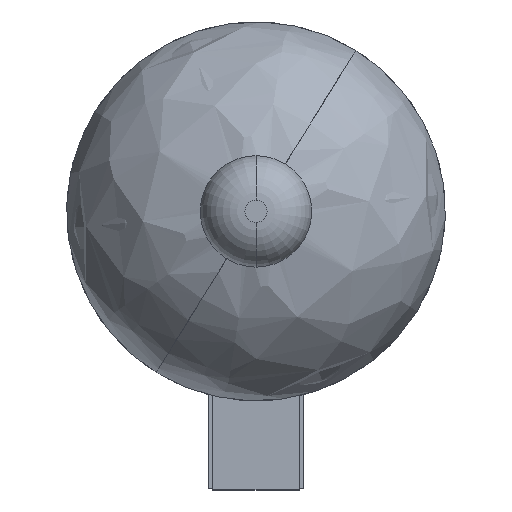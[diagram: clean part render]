
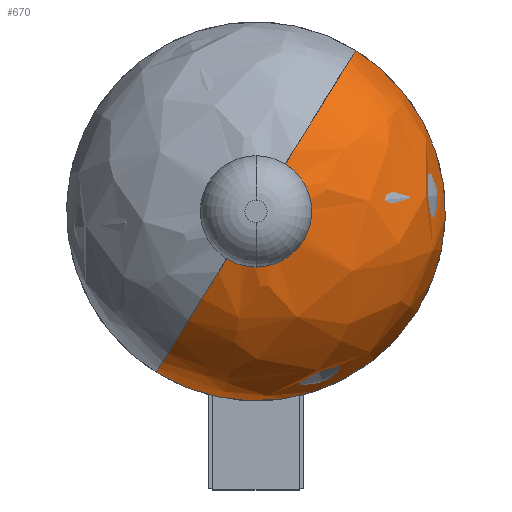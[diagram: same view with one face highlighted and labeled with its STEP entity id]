
A CAD part, front view. The second image highlights one B-rep face of the part: STEP entity #670.
In plain terms, the highlighted free-form (B-spline) face has degree [3, 3] with [4, 4] control points.
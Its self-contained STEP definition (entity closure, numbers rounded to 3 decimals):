
#311 = EDGE_CURVE ( 'NONE', #5690, #4592, #4649, .T. ) ;
#328 = ORIENTED_EDGE ( 'NONE', *, *, #7672, .T. ) ;
#390 = CARTESIAN_POINT ( 'NONE',  ( 182.02, 107.067, 72.265 ) ) ;
#651 = CARTESIAN_POINT ( 'NONE',  ( 128.843, 73.292, -13.603 ) ) ;
#670 = ADVANCED_FACE ( 'NONE', ( #2757 ), #7686, .T. ) ;
#743 = CARTESIAN_POINT ( 'NONE',  ( 128.843, 73.292, -13.603 ) ) ;
#956 = CARTESIAN_POINT ( 'NONE',  ( 145.691, 73.292, 13.603 ) ) ;
#1153 = DIRECTION ( 'NONE',  ( 0., 1., 0. ) ) ;
#1222 = CARTESIAN_POINT ( 'NONE',  ( 92.514, 142.286, -72.265 ) ) ;
#1292 = VERTEX_POINT ( 'NONE', #956 ) ;
#1325 = EDGE_CURVE ( 'NONE', #2012, #9642, #10278, .T. ) ;
#1941 = CARTESIAN_POINT ( 'NONE',  ( 167.727, 79.921, 49.184 ) ) ;
#2012 = VERTEX_POINT ( 'NONE', #3775 ) ;
#2043 = CARTESIAN_POINT ( 'NONE',  ( 182.02, 107.067, 72.265 ) ) ;
#2698 = DIRECTION ( 'NONE',  ( 0., 1., 0. ) ) ;
#2737 =( BOUNDED_CURVE ( )  B_SPLINE_CURVE ( 3, ( #8421, #5852, #390, #8232 ),
 .UNSPECIFIED., .F., .T. ) 
 B_SPLINE_CURVE_WITH_KNOTS ( ( 4, 4 ),
 ( 1.76, 3.142 ),
 .UNSPECIFIED. ) 
 CURVE ( )  GEOMETRIC_REPRESENTATION_ITEM ( )  RATIONAL_B_SPLINE_CURVE ( ( 1., 0.847, 0.847, 1. ) ) 
 REPRESENTATION_ITEM ( '' )  );
#2742 = CARTESIAN_POINT ( 'NONE',  ( 266.094, 79.921, -11.735 ) ) ;
#2757 = FACE_OUTER_BOUND ( 'NONE', #8969, .T. ) ;
#3000 = ORIENTED_EDGE ( 'NONE', *, *, #1325, .T. ) ;
#3106 = AXIS2_PLACEMENT_3D ( 'NONE', #7502, #2698, #7533 ) ;
#3555 = CARTESIAN_POINT ( 'NONE',  ( 205.176, 79.921, -110.102 ) ) ;
#3584 = CARTESIAN_POINT ( 'NONE',  ( 326.55, 142.286, -17.242 ) ) ;
#3616 = CARTESIAN_POINT ( 'NONE',  ( 145.691, 73.292, 13.603 ) ) ;
#3654 = CARTESIAN_POINT ( 'NONE',  ( 92.514, 142.286, -72.265 ) ) ;
#3775 = CARTESIAN_POINT ( 'NONE',  ( 150.87, 73.292, -8.424 ) ) ;
#3912 = CARTESIAN_POINT ( 'NONE',  ( 137.267, 142.286, 0. ) ) ;
#3965 = ORIENTED_EDGE ( 'NONE', *, *, #6390, .T. ) ;
#3977 = CARTESIAN_POINT ( 'NONE',  ( 106.808, 79.921, -49.184 ) ) ;
#4316 = CARTESIAN_POINT ( 'NONE',  ( 106.808, 79.921, -49.184 ) ) ;
#4592 = VERTEX_POINT ( 'NONE', #5675 ) ;
#4649 = CIRCLE ( 'NONE', #5878, 85. ) ;
#5079 = AXIS2_PLACEMENT_3D ( 'NONE', #10003, #1153, #6816 ) ;
#5498 = ORIENTED_EDGE ( 'NONE', *, *, #10214, .F. ) ;
#5545 = DIRECTION ( 'NONE',  ( 0., -1., 0. ) ) ;
#5675 = CARTESIAN_POINT ( 'NONE',  ( 182.02, 142.286, 72.265 ) ) ;
#5690 = VERTEX_POINT ( 'NONE', #1222 ) ;
#5852 = CARTESIAN_POINT ( 'NONE',  ( 167.727, 79.921, 49.184 ) ) ;
#5878 = AXIS2_PLACEMENT_3D ( 'NONE', #3912, #5545, #10215 ) ;
#6390 = EDGE_CURVE ( 'NONE', #9642, #5690, #6938, .T. ) ;
#6632 = CARTESIAN_POINT ( 'NONE',  ( 156.049, 73.292, -30.451 ) ) ;
#6761 = CARTESIAN_POINT ( 'NONE',  ( 237.043, 142.286, -161.771 ) ) ;
#6799 = CARTESIAN_POINT ( 'NONE',  ( 182.02, 142.286, 72.265 ) ) ;
#6816 = DIRECTION ( 'NONE',  ( -0.527, 0., -0.85 ) ) ;
#6938 =( BOUNDED_CURVE ( )  B_SPLINE_CURVE ( 3, ( #651, #3977, #7902, #7120 ),
 .UNSPECIFIED., .F., .T. ) 
 B_SPLINE_CURVE_WITH_KNOTS ( ( 4, 4 ),
 ( 1.76, 3.142 ),
 .UNSPECIFIED. ) 
 CURVE ( )  GEOMETRIC_REPRESENTATION_ITEM ( )  RATIONAL_B_SPLINE_CURVE ( ( 1., 0.847, 0.847, 1. ) ) 
 REPRESENTATION_ITEM ( '' )  );
#7120 = CARTESIAN_POINT ( 'NONE',  ( 92.514, 142.286, -72.265 ) ) ;
#7390 = CARTESIAN_POINT ( 'NONE',  ( 128.843, 73.292, -13.603 ) ) ;
#7502 = CARTESIAN_POINT ( 'NONE',  ( 137.267, 73.292, 0. ) ) ;
#7533 = DIRECTION ( 'NONE',  ( -0.527, 0., -0.85 ) ) ;
#7672 = EDGE_CURVE ( 'NONE', #1292, #2012, #7676, .T. ) ;
#7676 = CIRCLE ( 'NONE', #5079, 16. ) ;
#7686 =( BOUNDED_SURFACE ( )  B_SPLINE_SURFACE ( 3, 3, ( 
 ( #7390, #6632, #8351, #3616 ),
 ( #4316, #3555, #2742, #1941 ),
 ( #9917, #9206, #9237, #2043 ),
 ( #3654, #6761, #3584, #6799 ) ),
 .UNSPECIFIED., .F., .F., .F. ) 
 B_SPLINE_SURFACE_WITH_KNOTS ( ( 4, 4 ),
 ( 4, 4 ),
 ( 0., 1. ),
 ( 0., 1. ),
 .UNSPECIFIED. ) 
 GEOMETRIC_REPRESENTATION_ITEM ( )  RATIONAL_B_SPLINE_SURFACE ( (
 ( 1., 0.333, 0.333, 1.),
 ( 0.847, 0.282, 0.282, 0.847),
 ( 0.847, 0.282, 0.282, 0.847),
 ( 1., 0.333, 0.333, 1.) ) ) 
 REPRESENTATION_ITEM ( '' )  SURFACE ( )  );
#7902 = CARTESIAN_POINT ( 'NONE',  ( 92.514, 107.067, -72.265 ) ) ;
#8232 = CARTESIAN_POINT ( 'NONE',  ( 182.02, 142.286, 72.265 ) ) ;
#8351 = CARTESIAN_POINT ( 'NONE',  ( 172.897, 73.292, -3.245 ) ) ;
#8421 = CARTESIAN_POINT ( 'NONE',  ( 145.691, 73.292, 13.603 ) ) ;
#8969 = EDGE_LOOP ( 'NONE', ( #5498, #328, #3000, #3965, #9286 ) ) ;
#9206 = CARTESIAN_POINT ( 'NONE',  ( 237.043, 107.067, -161.771 ) ) ;
#9237 = CARTESIAN_POINT ( 'NONE',  ( 326.55, 107.067, -17.242 ) ) ;
#9286 = ORIENTED_EDGE ( 'NONE', *, *, #311, .T. ) ;
#9642 = VERTEX_POINT ( 'NONE', #743 ) ;
#9917 = CARTESIAN_POINT ( 'NONE',  ( 92.514, 107.067, -72.265 ) ) ;
#10003 = CARTESIAN_POINT ( 'NONE',  ( 137.267, 73.292, 0. ) ) ;
#10214 = EDGE_CURVE ( 'NONE', #1292, #4592, #2737, .T. ) ;
#10215 = DIRECTION ( 'NONE',  ( -0.527, 0., -0.85 ) ) ;
#10278 = CIRCLE ( 'NONE', #3106, 16. ) ;
